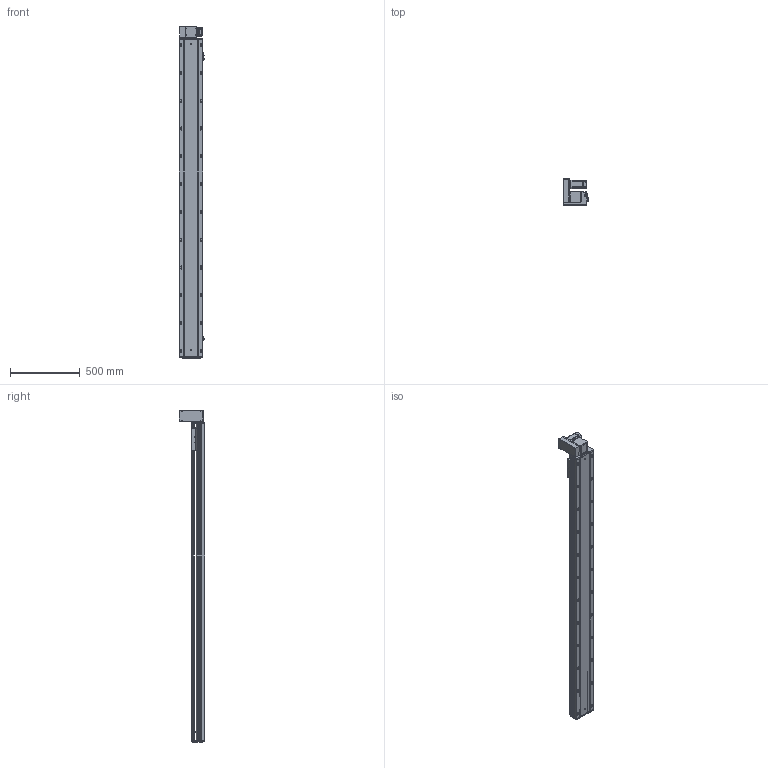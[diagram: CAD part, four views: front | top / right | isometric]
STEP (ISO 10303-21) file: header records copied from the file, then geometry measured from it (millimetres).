
FILE_DESCRIPTION (( 'STEP AP203' ), '1' );
FILE_NAME ('RY170-T-300-UL-P400W.SLDASM_2000.step', '2021-03-02T02:14:22', ( '盈信电脑' ), ( '东莞市道滘镇水果街19号' ), 'SwSTEP 2.0', 'SolidWorks 2012', '' );
FILE_SCHEMA (( 'CONFIG_CONTROL_DESIGN' ));
Length unit declared in the file: millimetre
Products named in the file (18): 15; RY170-T-300-UL-P400W.SLDASM_2000; RY170同步轮电机安装板(400W); RY170-T蹟翐M4; RY170肮祭謫萇儂欶; RY120-T主同步轮轴承压盖; RY170-T肮祭湍揤踡輸2; RY170-T肮祭謫裔啣; 滅袉蝶18-10; RY170肮祭謫ヶ裔啣; RY170外置感应片(200共用）; RY170翋肮祭謫釱; RY170-T肮祭湍揤踡輸1; RY170-T-300肮祭謫倰第裔啣-DL_2000; RY170綴裔啣; RY170肮祭湍臏賑輸; 覜茼ん672; RY170-T-300肮祭謫倰第菁釱-DL_2000
Assembly tree (20 placements, depth 2):
  RY170-T-300-UL-P400W.SLDASM_2000
    RY170-T-300肮祭謫倰第菁釱-DL_2000
    RY170肮祭湍臏賑輸
    RY170-T-300肮祭謫倰第裔啣-DL_2000
    RY170綴裔啣
    覜茼ん672  x3
    RY170外置感应片(200共用）
    RY170肮祭謫ヶ裔啣
    RY170翋肮祭謫釱
    RY170-T肮祭湍揤踡輸1
    RY170-T肮祭湍揤踡輸2
    RY170-T肮祭謫裔啣
    滅袉蝶18-10  x2
    RY120-T主同步轮轴承压盖
    RY170肮祭謫萇儂欶
    RY170同步轮电机安装板(400W)
    RY170-T蹟翐M4
    15
Bounding box: 183.7 x 184 x 2388 mm (x, y, z)
Volume: 11047269 mm3; surface area: 3798672.8 mm2
Topology: 20 solids, 20 shells, 2833 faces, 7986 edges, 5079 vertices
Faces by surface type: cylinder 1344, plane 1155, cone 304, bspline 30
Entity records: 91736 total; most frequent: CARTESIAN_POINT 21343, ORIENTED_EDGE 14480, DIRECTION 14084, EDGE_CURVE 7240, AXIS2_PLACEMENT_3D 5002, VERTEX_POINT 4747, LINE 4080, VECTOR 4080
